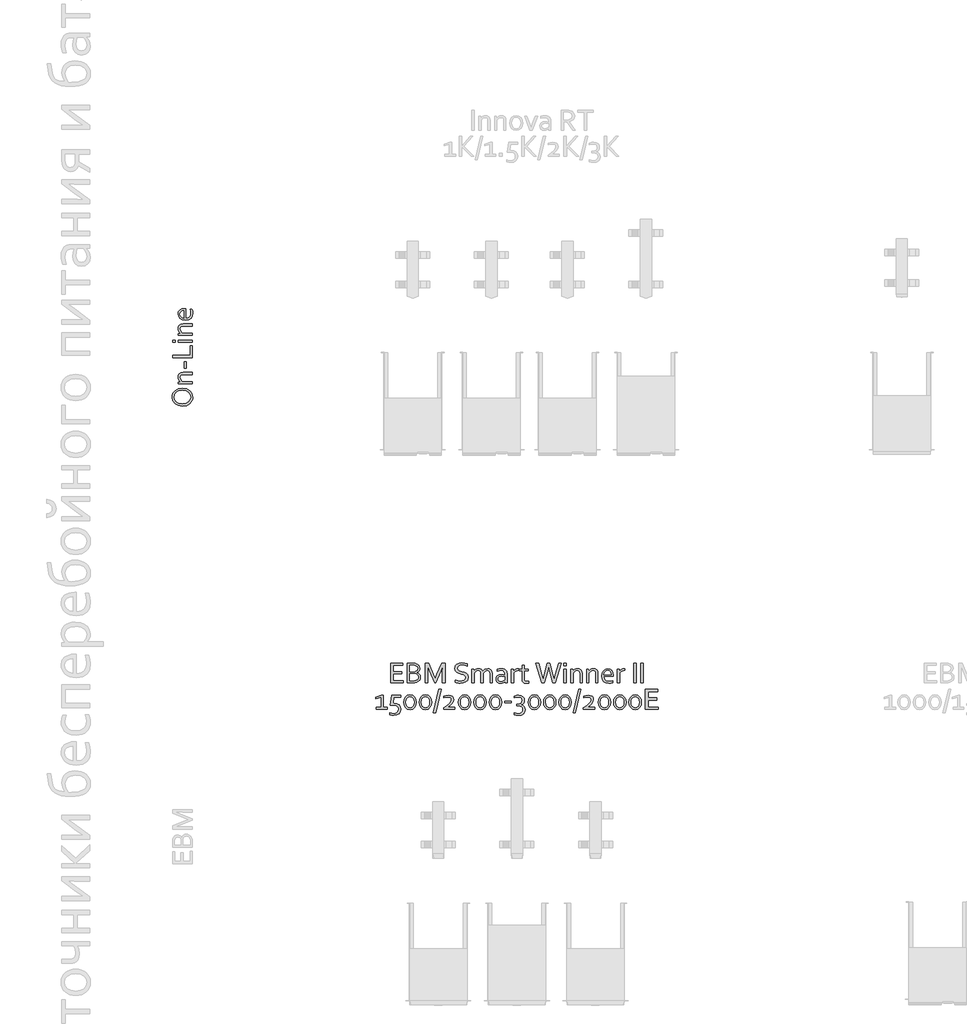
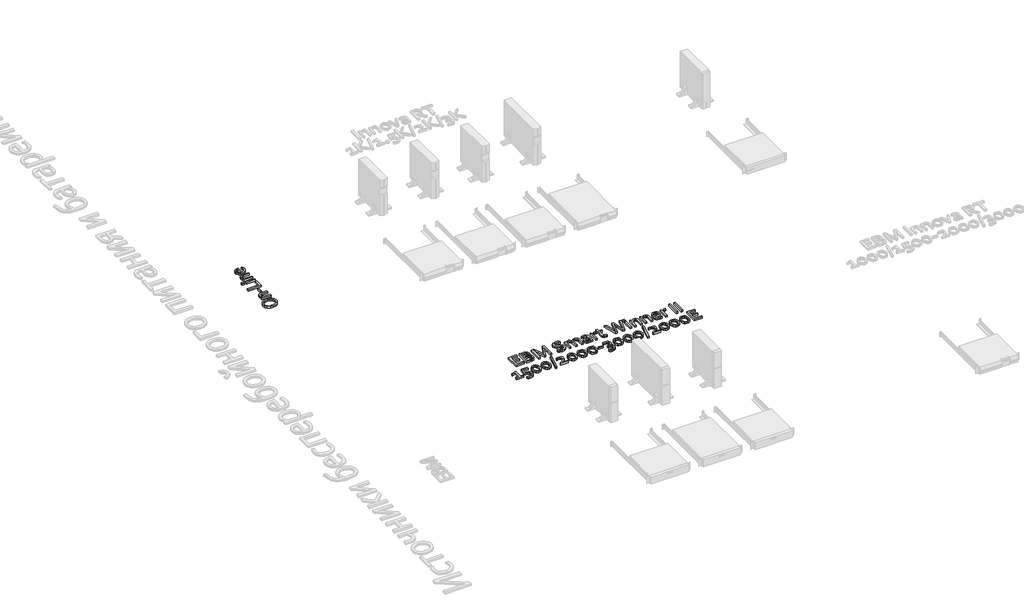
# One storey, part 3 of 14: 2 proxies.
"""IFC4 building model written with IfcOpenShell, lengths in millimetres."""

from ifc_helpers import new_model, si_unit, origin, origin_with_axes, place, context, project, spatial, polyline, outline, extrude, element, save

model = new_model("IFC4")

# Units and contexts
model_context = context("Model", 3, world=origin())
ifc_project = project(units=[si_unit("LENGTHUNIT", "METRE", prefix="MILLI")], contexts=[model_context])

# Site, building, storey
site = spatial("IfcSite", under=ifc_project)
building = spatial("IfcBuilding", under=site)
storey = spatial("IfcBuildingStorey", under=building, Name="Этаж 01", Elevation=0.0)

# Proxies
placement = place(None, origin())
element("IfcBuildingElementProxy", 1, Name="150 мм Corbel", ObjectType="150 мм Corbel", at=placement, inside=storey, context=model_context, shape_type="SweptSolid", body=[
    extrude(outline(polyline([(2451.7255565, -5315.0828355), (2483.2258256, -5319.8953767), (2507.966662, -5333.6548692), (2524.1761755, -5355.2238035), (2529.9949752, -5383.4646698), (2528.5402752, -5398.7991758), (2524.1761755, -5412.4274172), (2507.966662, -5434.0401019), (2483.2258256, -5447.5808426), (2451.7255565, -5452.2840078), (2420.0284106, -5447.4277163), (2395.2219487, -5433.6682237), (2379.0124352, -5412.0992894), (2373.1936355, -5383.6834216), (2374.6483354, -5368.4582916), (2379.0124352, -5354.8956757), (2395.2219487, -5333.3267414), (2420.0284106, -5319.7860007), (2451.7255565, -5315.0828355)]), holes=[polyline([(2451.7255565, -5331.8829791), (2424.9940781, -5335.8642631), (2405.7001632, -5346.8237317), (2393.975063, -5363.2957475), (2389.993779, -5383.6834216), (2393.975063, -5404.0710958), (2405.7001632, -5420.5431116), (2424.9940781, -5431.5025802), (2451.7255565, -5435.4838642), (2478.3695341, -5431.4588298), (2497.5978234, -5420.4337356), (2509.257298, -5403.9617199), (2513.1948316, -5383.4646698), (2509.257298, -5363.1863715), (2497.5978234, -5346.8237317), (2478.3695341, -5335.8642631), (2451.7255565, -5331.8829791)])]), origin_with_axes(), (0.0, 0.0, 1.0), 20.0),
    extrude(outline(polyline([(2435.5816685, -5264.7699057), (2428.7128598, -5258.0542233), (2423.0909368, -5250.2010312), (2419.3284047, -5240.6853249), (2417.9940183, -5229.4196036), (2420.0065355, -5215.8132374), (2426.503466, -5204.8100184), (2438.2066909, -5197.4162052), (2455.9693427, -5194.6818068), (2527.1949512, -5194.6818068), (2527.1949512, -5211.4819504), (2458.113111, -5211.4819504), (2446.1528526, -5212.8272744), (2438.097315, -5216.8632464), (2433.5199322, -5223.4695528), (2431.9941379, -5232.5258802), (2437.2223075, -5250.0697801), (2451.5943053, -5264.6824049), (2527.1949512, -5264.6824049), (2527.1949512, -5281.4825485), (2420.7940422, -5281.4825485), (2420.7940422, -5268.1386845), (2435.5816685, -5264.7699057)])), origin_with_axes(), (0.0, 0.0, 1.0), 20.0),
    extrude(outline(polyline([(2465.5944249, -5164.4065482), (2465.5944249, -5114.9686258), (2479.5945446, -5114.9686258), (2479.5945446, -5164.4065482), (2465.5944249, -5164.4065482)])), origin_with_axes(), (0.0, 0.0, 1.0), 20.0),
    extrude(outline(polyline([(2375.9936594, -5063.0806825), (2510.3948077, -5063.0806825), (2510.3948077, -4989.8425567), (2527.1949512, -4989.8425567), (2527.1949512, -5082.6808499), (2375.9936594, -5082.6808499), (2375.9936594, -5063.0806825)])), origin_with_axes(), (0.0, 0.0, 1.0), 20.0),
    extrude(outline(polyline([(2395.5938269, -4965.0798452), (2375.9936594, -4965.0798452), (2375.9936594, -4948.2797016), (2395.5938269, -4948.2797016), (2395.5938269, -4965.0798452)])), origin_with_axes(), (0.0, 0.0, 1.0), 20.0),
    extrude(outline(polyline([(2527.1949512, -4965.0798452), (2420.7940422, -4965.0798452), (2420.7940422, -4948.2797016), (2527.1949512, -4948.2797016), (2527.1949512, -4965.0798452)])), origin_with_axes(), (0.0, 0.0, 1.0), 20.0),
    extrude(outline(polyline([(2435.5816685, -4895.1667478), (2428.7128598, -4888.4510655), (2423.0909368, -4880.5978734), (2419.3284047, -4871.0821671), (2417.9940183, -4859.8164458), (2420.0065355, -4846.2100796), (2426.503466, -4835.2068606), (2438.2066909, -4827.8130474), (2455.9693427, -4825.078649), (2527.1949512, -4825.078649), (2527.1949512, -4841.8787926), (2458.113111, -4841.8787926), (2446.1528526, -4843.2241166), (2438.097315, -4847.2600885), (2433.5199322, -4853.866395), (2431.9941379, -4862.9227224), (2437.2223075, -4880.4666222), (2451.5943053, -4895.0792471), (2527.1949512, -4895.0792471), (2527.1949512, -4911.8793906), (2420.7940422, -4911.8793906), (2420.7940422, -4898.5355266), (2435.5816685, -4895.1667478)])), origin_with_axes(), (0.0, 0.0, 1.0), 20.0),
    extrude(outline(polyline([(2515.9948556, -4741.7341869), (2514.529218, -4725.9621772), (2510.3948077, -4711.7651809), (2524.2199258, -4711.7651809), (2528.4418369, -4725.8965516), (2529.9949752, -4743.965456), (2527.0855753, -4765.4250144), (2517.6792449, -4782.4439098), (2500.7040999, -4793.2502521), (2475.438259, -4797.0784098), (2450.1942934, -4793.0971258), (2432.3441409, -4782.5095353), (2421.5815489, -4767.2844052), (2417.9940183, -4749.3030016), (2420.9252933, -4732.8091107), (2430.1566222, -4719.5089971), (2446.409886, -4710.605796), (2470.2757149, -4707.3463931), (2472.5288592, -4707.3463931), (2476.7945206, -4707.4776443), (2476.7945206, -4781.1970241), (2494.9946761, -4778.1126228), (2507.1135297, -4769.6906758), (2513.8729624, -4757.1780689), (2515.9948556, -4741.7341869)]), holes=[polyline([(2431.9941379, -4750.046758), (2434.4222836, -4761.5531063), (2441.0285901, -4770.8281855), (2450.8067986, -4777.2594905), (2462.794401, -4780.2782663), (2462.794401, -4724.2777878), (2450.6974227, -4725.9621772), (2440.9192141, -4730.9278446), (2434.3785332, -4738.9779134), (2431.9941379, -4750.046758)])]), origin_with_axes(), (0.0, 0.0, 1.0), 20.0),
])
element("IfcBuildingElementProxy", 2, Name="150 мм Corbel", ObjectType="150 мм Corbel", at=placement, inside=storey, context=model_context, shape_type="SweptSolid", body=[
    extrude(outline(polyline([(4061.2924439, -7548.6877316), (4138.205601, -7548.6877316), (4138.205601, -7565.4878752), (4041.6922764, -7565.4878752), (4041.6922764, -7414.2865833), (4134.0493155, -7414.2865833), (4134.0493155, -7431.0867269), (4061.2924439, -7431.0867269), (4061.2924439, -7478.6871335), (4125.9992467, -7478.6871335), (4125.9992467, -7495.4872771), (4061.2924439, -7495.4872771), (4061.2924439, -7548.6877316)])), origin_with_axes(), (0.0, 0.0, 1.0), 20.0),
    extrude(outline(polyline([(4239.0064622, -7486.1246971), (4251.497194, -7490.1278563), (4260.9035243, -7497.1497913), (4266.6348233, -7507.3217532), (4268.4942142, -7520.7749931), (4266.9848263, -7532.0407144), (4261.9535333, -7543.4814371), (4252.7222044, -7553.7190246), (4238.5689585, -7561.37534), (4224.1750855, -7564.5691173), (4205.1874233, -7565.4878752), (4167.6933529, -7565.4878752), (4167.6933529, -7414.2865833), (4204.1374143, -7414.2865833), (4213.2156169, -7414.4615848), (4220.7406812, -7414.9647141), (4227.1282357, -7415.7959712), (4232.7064084, -7416.9553561), (4245.1752649, -7422.1616506), (4254.7128464, -7430.0148427), (4260.7722732, -7440.3836813), (4262.8941663, -7453.0056641), (4261.6035303, -7463.4838786), (4257.4472448, -7472.7370827), (4250.0534316, -7480.3277726), (4239.0064622, -7486.1246971)]), holes=[polyline([(4214.4187522, -7478.6871335), (4223.4532043, -7478.1840042), (4230.3438882, -7476.7183667), (4242.3314906, -7468.1214183), (4246.0940228, -7454.3181753), (4242.1564891, -7440.9961865), (4229.8188837, -7433.2742455), (4220.1938015, -7431.5898561), (4207.2874412, -7431.0867269), (4187.2935204, -7431.0867269), (4187.2935204, -7478.6871335), (4214.4187522, -7478.6871335)]), polyline([(4187.2935204, -7495.4872771), (4187.2935204, -7548.6877316), (4208.5999524, -7548.6877316), (4222.6875728, -7547.9439753), (4233.712667, -7545.5814551), (4242.1564891, -7541.1845425), (4247.7346618, -7535.2344917), (4250.7753128, -7528.3219326), (4251.6940706, -7520.9062443), (4250.7096872, -7512.7030492), (4247.5159099, -7505.8342405), (4241.675235, -7500.5185701), (4232.662658, -7496.9747898), (4225.2250945, -7495.8372801), (4214.9000063, -7495.4872771), (4187.2935204, -7495.4872771)])]), origin_with_axes(), (0.0, 0.0, 1.0), 20.0),
    extrude(outline(polyline([(4384.7389573, -7565.4878752), (4376.2513848, -7565.4878752), (4339.2385686, -7475.1871036), (4323.838437, -7434.6305071), (4324.4946926, -7492.3810005), (4324.4946926, -7565.4878752), (4304.8945252, -7565.4878752), (4304.8945252, -7414.2865833), (4331.3635013, -7414.2865833), (4366.8013041, -7499.8185641), (4380.1889185, -7535.2126165), (4394.1452877, -7499.8185641), (4429.6268409, -7414.2865833), (4456.095817, -7414.2865833), (4456.095817, -7565.4878752), (4436.4956495, -7565.4878752), (4436.4956495, -7492.3810005), (4438.070663, -7434.6305071), (4421.7517736, -7475.1871036), (4384.7389573, -7565.4878752)])), origin_with_axes(), (0.0, 0.0, 1.0), 20.0),
    extrude(outline(polyline([(4551.2966304, -7454.3181753), (4554.0310287, -7465.3213943), (4561.3592164, -7472.4964556), (4572.0343076, -7477.1339953), (4584.721916, -7480.5246492), (4602.2001903, -7485.2715648), (4617.4909459, -7492.4466261), (4628.3410386, -7504.368603), (4632.4973241, -7523.2250141), (4628.0129108, -7543.4814371), (4615.6315551, -7557.5034319), (4597.0813966, -7565.6410015), (4573.7405721, -7568.2878991), (4561.8185953, -7567.5660179), (4550.1591207, -7565.6191263), (4540.1184099, -7562.8191023), (4533.0527245, -7559.7128258), (4533.0527245, -7543.0876838), (4542.1309271, -7546.5220881), (4552.5653912, -7549.1689857), (4563.4373591, -7550.8752503), (4573.7405721, -7551.4877555), (4588.7250752, -7550.1533691), (4601.2158069, -7545.690831), (4609.7471298, -7537.1813833), (4612.8971567, -7523.6625178), (4610.0971328, -7512.4842973), (4602.637694, -7505.1998601), (4591.8751021, -7500.5185701), (4579.0343674, -7497.1060409), (4561.6217186, -7492.556002), (4546.4622141, -7485.4903167), (4535.7433725, -7473.8527172), (4531.6964629, -7455.6744369), (4535.9402492, -7435.8555176), (4547.4247223, -7422.1179002), (4563.9842388, -7414.0897066), (4583.8469085, -7411.4865594), (4606.2033495, -7413.783454), (4625.1910117, -7419.75538), (4625.1910117, -7436.6867747), (4605.9627224, -7430.6929735), (4584.721916, -7428.2867029), (4569.9124144, -7430.1242186), (4559.4998255, -7435.3523883), (4553.3310228, -7443.5774586), (4551.2966304, -7454.3181753)])), origin_with_axes(), (0.0, 0.0, 1.0), 20.0),
    extrude(outline(polyline([(4747.298305, -7565.4878752), (4730.4981615, -7565.4878752), (4730.4981615, -7496.4060349), (4728.9668984, -7484.4840581), (4724.5043602, -7476.3902389), (4717.5261756, -7471.7526993), (4708.4479731, -7470.2870618), (4691.232201, -7475.5152314), (4677.2977069, -7489.8872292), (4677.2977069, -7565.4878752), (4660.4975634, -7565.4878752), (4660.4975634, -7459.0869661), (4673.9289281, -7459.0869661), (4677.2539565, -7473.8745924), (4683.9477637, -7467.0057837), (4691.5384536, -7461.3838607), (4700.7479073, -7457.6213286), (4711.7292511, -7456.2869422), (4722.5793438, -7457.7142981), (4731.4169193, -7461.9963659), (4743.4920225, -7477.5496238), (4760.1827901, -7461.9307404), (4781.4673469, -7456.2869422), (4793.411199, -7457.8619556), (4805.005048, -7463.637005), (4813.7988732, -7475.230854), (4817.2989031, -7494.2622666), (4817.2989031, -7565.4878752), (4800.4987595, -7565.4878752), (4800.4987595, -7496.4060349), (4798.9674964, -7484.4840581), (4794.5268335, -7476.3902389), (4787.5705241, -7471.7526993), (4778.4923215, -7470.2870618), (4761.2546742, -7475.5152314), (4747.298305, -7489.8872292), (4747.298305, -7565.4878752)])), origin_with_axes(), (0.0, 0.0, 1.0), 20.0),
    extrude(outline(polyline([(4913.0247209, -7553.7190246), (4907.2277964, -7559.034695), (4899.812108, -7563.7597354), (4890.6245295, -7567.0628886), (4879.9931887, -7568.2878991), (4865.9711939, -7566.0347548), (4855.0117253, -7559.4065732), (4847.8585392, -7548.7533572), (4845.2991423, -7534.5126105), (4848.1429166, -7520.5124909), (4856.1054846, -7510.0342764), (4868.4212148, -7503.4060947), (4884.3244757, -7501.0873249), (4899.571481, -7502.5748376), (4912.0622127, -7505.9436164), (4912.4997164, -7498.3310514), (4911.9309616, -7489.9966052), (4910.0059451, -7483.6309258), (4900.7308659, -7474.0714691), (4883.4494682, -7470.2870618), (4868.2462133, -7471.7745745), (4854.0929674, -7475.8871096), (4854.0929674, -7462.1932426), (4860.4148964, -7459.8088472), (4868.093087, -7457.905706), (4876.6025347, -7456.7025707), (4885.5932366, -7456.2869422), (4900.2277366, -7457.7142981), (4911.8434608, -7461.9963659), (4920.5060348, -7468.6300164), (4926.2810842, -7477.1121201), (4928.599854, -7485.0090626), (4929.29986, -7494.4810185), (4929.29986, -7565.4878752), (4914.905987, -7565.4878752), (4913.0247209, -7553.7190246)]), holes=[polyline([(4912.4997164, -7519.0687286), (4900.8839922, -7516.4655813), (4886.118241, -7515.0874445), (4868.4649652, -7519.8562353), (4863.6907057, -7525.9047245), (4862.0992858, -7534.5126105), (4863.6961745, -7543.2626853), (4868.0712119, -7549.4533632), (4874.6556431, -7553.0846442), (4882.7932126, -7554.2877795), (4893.3808031, -7552.6471404), (4902.0871275, -7548.731482), (4908.5621828, -7544.1814431), (4912.4997164, -7540.6376628), (4912.4997164, -7519.0687286)])]), origin_with_axes(), (0.0, 0.0, 1.0), 20.0),
    extrude(outline(polyline([(5020.6943908, -7470.2870618), (5007.2630261, -7471.4464467), (4996.1066808, -7474.9683518), (4986.7003504, -7480.8090267), (4979.7002906, -7489.0122218), (4979.7002906, -7565.4878752), (4962.9001471, -7565.4878752), (4962.9001471, -7459.0869661), (4975.8940081, -7459.0869661), (4979.1315357, -7476.0183607), (4985.7815925, -7468.2745446), (4994.2472899, -7461.9963659), (5004.5723781, -7457.7963301), (5016.3631038, -7456.2869422), (5018.6381233, -7456.3306925), (5020.6943908, -7456.4619437), (5020.6943908, -7470.2870618)])), origin_with_axes(), (0.0, 0.0, 1.0), 20.0),
    extrude(outline(polyline([(5094.2825196, -7565.8816285), (5087.4574612, -7567.456642), (5076.4761174, -7568.2878991), (5061.9947437, -7566.1878811), (5051.9540329, -7560.1940799), (5046.0477325, -7550.7658744), (5044.1008408, -7538.4501441), (5044.1008408, -7473.0870857), (5023.5819155, -7473.0870857), (5023.5819155, -7459.0869661), (5044.1008408, -7459.0869661), (5044.1008408, -7431.0867269), (5060.9009844, -7431.0867269), (5060.9009844, -7459.0869661), (5092.7075061, -7459.0869661), (5092.7075061, -7473.0870857), (5060.9009844, -7473.0870857), (5060.9009844, -7536.7001292), (5061.9509933, -7543.7220642), (5065.2978969, -7549.3002368), (5071.1823222, -7552.9752682), (5079.8448962, -7554.2877795), (5087.1730838, -7553.7190246), (5094.2825196, -7552.2752623), (5094.2825196, -7565.8816285)])), origin_with_axes(), (0.0, 0.0, 1.0), 20.0),
    extrude(outline(polyline([(5247.0588249, -7439.2680468), (5238.3962508, -7475.6683577), (5214.9460505, -7565.4878752), (5196.2208905, -7565.4878752), (5150.5017499, -7414.2865833), (5170.1019173, -7414.2865833), (5194.7771282, -7503.0123414), (5204.7959638, -7541.4251696), (5210.0678838, -7520.9718698), (5214.6835482, -7503.2310932), (5237.3024915, -7414.2865833), (5256.902659, -7414.2865833), (5278.9528474, -7503.2310932), (5288.1404258, -7541.4251696), (5298.8592674, -7503.0123414), (5324.1032331, -7414.2865833), (5343.7034006, -7414.2865833), (5297.284254, -7565.4878752), (5278.559094, -7565.4878752), (5255.5901477, -7475.6683577), (5247.0588249, -7439.2680468)])), origin_with_axes(), (0.0, 0.0, 1.0), 20.0),
    extrude(outline(polyline([(5363.303568, -7433.8867508), (5363.303568, -7414.2865833), (5380.1037116, -7414.2865833), (5380.1037116, -7433.8867508), (5363.303568, -7433.8867508)])), origin_with_axes(), (0.0, 0.0, 1.0), 20.0),
    extrude(outline(polyline([(5363.303568, -7565.4878752), (5363.303568, -7459.0869661), (5380.1037116, -7459.0869661), (5380.1037116, -7565.4878752), (5363.303568, -7565.4878752)])), origin_with_axes(), (0.0, 0.0, 1.0), 20.0),
    extrude(outline(polyline([(5433.2166654, -7473.8745924), (5439.9323477, -7467.0057837), (5447.7855398, -7461.3838607), (5457.3012461, -7457.6213286), (5468.5669674, -7456.2869422), (5482.1733336, -7458.2994594), (5493.1765526, -7464.7963899), (5500.5703658, -7476.4996149), (5503.3047642, -7494.2622666), (5503.3047642, -7565.4878752), (5486.5046206, -7565.4878752), (5486.5046206, -7496.4060349), (5485.1592966, -7484.4457765), (5481.1233247, -7476.3902389), (5474.5170182, -7471.8128561), (5465.4606908, -7470.2870618), (5447.9167909, -7475.5152314), (5433.3041661, -7489.8872292), (5433.3041661, -7565.4878752), (5416.5040226, -7565.4878752), (5416.5040226, -7459.0869661), (5429.8478866, -7459.0869661), (5433.2166654, -7473.8745924)])), origin_with_axes(), (0.0, 0.0, 1.0), 20.0),
    extrude(outline(polyline([(5553.617694, -7473.8745924), (5560.3333764, -7467.0057837), (5568.1865685, -7461.3838607), (5577.7022748, -7457.6213286), (5588.9679961, -7456.2869422), (5602.5743623, -7458.2994594), (5613.5775813, -7464.7963899), (5620.9713945, -7476.4996149), (5623.7057929, -7494.2622666), (5623.7057929, -7565.4878752), (5606.9056493, -7565.4878752), (5606.9056493, -7496.4060349), (5605.5603253, -7484.4457765), (5601.5243533, -7476.3902389), (5594.9180469, -7471.8128561), (5585.8617195, -7470.2870618), (5568.3178196, -7475.5152314), (5553.7051948, -7489.8872292), (5553.7051948, -7565.4878752), (5536.9050512, -7565.4878752), (5536.9050512, -7459.0869661), (5550.2489153, -7459.0869661), (5553.617694, -7473.8745924)])), origin_with_axes(), (0.0, 0.0, 1.0), 20.0),
    extrude(outline(polyline([(5707.0502549, -7554.2877795), (5722.8222647, -7552.8221419), (5737.019261, -7548.6877316), (5737.019261, -7562.5128497), (5722.8878903, -7566.7347608), (5704.8189859, -7568.2878991), (5683.3594275, -7565.3784992), (5666.3405321, -7555.9721688), (5655.5341898, -7538.9970238), (5651.7060321, -7513.731183), (5655.6873161, -7488.4872173), (5666.2749066, -7470.6370648), (5681.5000366, -7459.8744728), (5699.4814403, -7456.2869422), (5715.9753312, -7459.2182172), (5729.2754448, -7468.4495461), (5738.1786459, -7484.7028099), (5741.4380487, -7508.5686388), (5741.4380487, -7510.8217831), (5741.3067976, -7515.0874445), (5667.5874178, -7515.0874445), (5670.6718191, -7533.2876), (5679.0937661, -7545.4064536), (5691.606373, -7552.1658863), (5707.0502549, -7554.2877795)]), holes=[polyline([(5698.7376839, -7470.2870618), (5687.2313356, -7472.7152075), (5677.9562564, -7479.321514), (5671.5249514, -7489.0997225), (5668.5061756, -7501.0873249), (5724.5066541, -7501.0873249), (5722.8222647, -7488.9903466), (5717.8565973, -7479.212138), (5709.8065285, -7472.6714571), (5698.7376839, -7470.2870618)])]), origin_with_axes(), (0.0, 0.0, 1.0), 20.0),
    extrude(outline(polyline([(5829.9013046, -7470.2870618), (5816.4699398, -7471.4464467), (5805.3135945, -7474.9683518), (5795.9072641, -7480.8090267), (5788.9072043, -7489.0122218), (5788.9072043, -7565.4878752), (5772.1070608, -7565.4878752), (5772.1070608, -7459.0869661), (5785.1009218, -7459.0869661), (5788.3384495, -7476.0183607), (5794.9885063, -7468.2745446), (5803.4542036, -7461.9963659), (5813.7792918, -7457.7963301), (5825.5700176, -7456.2869422), (5827.845037, -7456.3306925), (5829.9013046, -7456.4619437), (5829.9013046, -7470.2870618)])), origin_with_axes(), (0.0, 0.0, 1.0), 20.0),
    extrude(outline(polyline([(5895.3081134, -7565.4878752), (5895.3081134, -7414.2865833), (5914.9082808, -7414.2865833), (5914.9082808, -7565.4878752), (5895.3081134, -7565.4878752)])), origin_with_axes(), (0.0, 0.0, 1.0), 20.0),
    extrude(outline(polyline([(5951.3085918, -7565.4878752), (5951.3085918, -7414.2865833), (5970.9087593, -7414.2865833), (5970.9087593, -7565.4878752), (5951.3085918, -7565.4878752)])), origin_with_axes(), (0.0, 0.0, 1.0), 20.0),
    extrude(outline(polyline([(3967.4916425, -7751.8881861), (3967.4916425, -7673.4875163), (3927.0225467, -7687.4876359), (3927.0225467, -7673.4875163), (3969.7666619, -7659.4873967), (3984.291786, -7659.4873967), (3984.291786, -7751.8881861), (4013.6482868, -7751.8881861), (4013.6482868, -7765.8883058), (3931.7038367, -7765.8883058), (3931.7038367, -7751.8881861), (3967.4916425, -7751.8881861)])), origin_with_axes(), (0.0, 0.0, 1.0), 20.0),
    extrude(outline(polyline([(4118.6929343, -7765.7570546), (4115.2147796, -7784.8103424), (4105.0209425, -7799.9260966), (4088.0895478, -7809.9011818), (4064.8799745, -7813.4887125), (4048.6267107, -7812.0011997), (4034.735967, -7807.4511609), (4034.735967, -7793.888545), (4050.420476, -7798.3292079), (4064.0924678, -7799.4885928), (4080.6957347, -7796.8635704), (4092.4645852, -7789.7103843), (4099.5302706, -7779.1665442), (4101.8927908, -7766.5445614), (4099.3990195, -7752.6100673), (4091.5895777, -7742.8318588), (4077.9394611, -7737.0130591), (4057.8361643, -7735.0880426), (4038.0609954, -7736.2255523), (4048.6923362, -7659.4873967), (4119.7429433, -7659.4873967), (4119.7429433, -7673.4875163), (4065.4924798, -7673.4875163), (4059.2361763, -7721.3066749), (4065.4924798, -7721.087923), (4088.2426741, -7724.1066988), (4104.9334417, -7732.8348984), (4115.1929044, -7746.835018), (4118.6929343, -7765.7570546)])), origin_with_axes(), (0.0, 0.0, 1.0), 20.0),
    extrude(outline(polyline([(4236.2939391, -7712.8191023), (4233.0782866, -7734.9130411), (4223.7375818, -7752.6538177), (4208.8405795, -7764.4226682), (4188.7810331, -7768.6883297), (4168.3277334, -7764.4226682), (4153.3651055, -7752.6538177), (4144.1994022, -7734.9130411), (4141.0931257, -7712.8191023), (4144.3087782, -7690.5720373), (4153.649483, -7672.7656351), (4168.6121108, -7660.9530342), (4188.6935324, -7656.6873728), (4209.0593314, -7660.9530342), (4224.0219592, -7672.7656351), (4233.1876625, -7690.5720373), (4236.2939391, -7712.8191023)]), holes=[polyline([(4219.4937955, -7712.8191023), (4217.3062768, -7695.1658265), (4211.1155989, -7681.9313384), (4201.4467663, -7673.5968922), (4188.6935324, -7670.6874924), (4175.9402984, -7673.5968922), (4166.2277154, -7681.9313384), (4160.0370375, -7695.1658265), (4157.8932692, -7712.8191023), (4160.0807879, -7730.3192519), (4166.2714658, -7743.5099896), (4176.005924, -7751.7788102), (4188.8247835, -7754.6882101), (4201.5561423, -7751.7788102), (4211.2249749, -7743.5099896), (4217.3500272, -7730.3192519), (4219.4937955, -7712.8191023)])]), origin_with_axes(), (0.0, 0.0, 1.0), 20.0),
    extrude(outline(polyline([(4353.8949438, -7712.8191023), (4350.6792913, -7734.9130411), (4341.3385865, -7752.6538177), (4326.4415843, -7764.4226682), (4306.3820379, -7768.6883297), (4285.9287381, -7764.4226682), (4270.9661103, -7752.6538177), (4261.800407, -7734.9130411), (4258.6941304, -7712.8191023), (4261.9097829, -7690.5720373), (4271.2504877, -7672.7656351), (4286.2131156, -7660.9530342), (4306.2945371, -7656.6873728), (4326.6603361, -7660.9530342), (4341.622964, -7672.7656351), (4350.7886673, -7690.5720373), (4353.8949438, -7712.8191023)]), holes=[polyline([(4337.0948003, -7712.8191023), (4334.9072816, -7695.1658265), (4328.7166037, -7681.9313384), (4319.0477711, -7673.5968922), (4306.2945371, -7670.6874924), (4293.5413032, -7673.5968922), (4283.8287202, -7681.9313384), (4277.6380423, -7695.1658265), (4275.494274, -7712.8191023), (4277.6817927, -7730.3192519), (4283.8724706, -7743.5099896), (4293.6069287, -7751.7788102), (4306.4257883, -7754.6882101), (4319.157147, -7751.7788102), (4328.8259796, -7743.5099896), (4334.951032, -7730.3192519), (4337.0948003, -7712.8191023)])]), origin_with_axes(), (0.0, 0.0, 1.0), 20.0),
    extrude(outline(polyline([(4367.1075567, -7793.888545), (4409.7204208, -7614.6870139), (4426.3018125, -7614.6870139), (4383.6889484, -7793.888545), (4367.1075567, -7793.888545)])), origin_with_axes(), (0.0, 0.0, 1.0), 20.0),
    extrude(outline(polyline([(4474.0772206, -7752.3256899), (4497.2649187, -7751.8881861), (4530.9527066, -7751.8881861), (4530.9527066, -7765.8883058), (4445.683228, -7765.8883058), (4445.683228, -7756.3507243), (4469.4615562, -7738.5661973), (4488.2304666, -7722.7504372), (4500.6118223, -7708.0065612), (4505.0962357, -7693.5689379), (4503.526691, -7684.9610518), (4498.818057, -7678.6500604), (4491.1672104, -7674.7781523), (4480.7710278, -7673.4875163), (4463.7958828, -7675.084405), (4446.8207378, -7679.0875642), (4446.8207378, -7667.012461), (4462.5708723, -7661.7405409), (4483.133548, -7659.4873967), (4499.2774359, -7661.7186658), (4511.5056654, -7668.2155963), (4519.183856, -7678.7594363), (4521.8963792, -7693.2626853), (4518.3525989, -7709.6253251), (4508.5525152, -7724.2379499), (4493.3273851, -7738.063068), (4474.0772206, -7752.3256899)])), origin_with_axes(), (0.0, 0.0, 1.0), 20.0),
    extrude(outline(polyline([(4653.4975036, -7712.8191023), (4650.2818511, -7734.9130411), (4640.9411463, -7752.6538177), (4626.044144, -7764.4226682), (4605.9845976, -7768.6883297), (4585.5312979, -7764.4226682), (4570.56867, -7752.6538177), (4561.4029667, -7734.9130411), (4558.2966902, -7712.8191023), (4561.5123427, -7690.5720373), (4570.8530475, -7672.7656351), (4585.8156753, -7660.9530342), (4605.8970969, -7656.6873728), (4626.2628959, -7660.9530342), (4641.2255237, -7672.7656351), (4650.391227, -7690.5720373), (4653.4975036, -7712.8191023)]), holes=[polyline([(4636.69736, -7712.8191023), (4634.5098413, -7695.1658265), (4628.3191635, -7681.9313384), (4618.6503308, -7673.5968922), (4605.8970969, -7670.6874924), (4593.1438629, -7673.5968922), (4583.4312799, -7681.9313384), (4577.240602, -7695.1658265), (4575.0968337, -7712.8191023), (4577.2843524, -7730.3192519), (4583.4750303, -7743.5099896), (4593.2094885, -7751.7788102), (4606.028348, -7754.6882101), (4618.7597068, -7751.7788102), (4628.4285394, -7743.5099896), (4634.5535917, -7730.3192519), (4636.69736, -7712.8191023)])]), origin_with_axes(), (0.0, 0.0, 1.0), 20.0),
    extrude(outline(polyline([(4771.0985083, -7712.8191023), (4767.8828559, -7734.9130411), (4758.5421511, -7752.6538177), (4743.6451488, -7764.4226682), (4723.5856024, -7768.6883297), (4703.1323026, -7764.4226682), (4688.1696748, -7752.6538177), (4679.0039715, -7734.9130411), (4675.897695, -7712.8191023), (4679.1133474, -7690.5720373), (4688.4540522, -7672.7656351), (4703.4166801, -7660.9530342), (4723.4981016, -7656.6873728), (4743.8639006, -7660.9530342), (4758.8265285, -7672.7656351), (4767.9922318, -7690.5720373), (4771.0985083, -7712.8191023)]), holes=[polyline([(4754.2983648, -7712.8191023), (4752.1108461, -7695.1658265), (4745.9201682, -7681.9313384), (4736.2513356, -7673.5968922), (4723.4981016, -7670.6874924), (4710.7448677, -7673.5968922), (4701.0322847, -7681.9313384), (4694.8416068, -7695.1658265), (4692.6978385, -7712.8191023), (4694.8853572, -7730.3192519), (4701.0760351, -7743.5099896), (4710.8104932, -7751.7788102), (4723.6293528, -7754.6882101), (4736.3607115, -7751.7788102), (4746.0295441, -7743.5099896), (4752.1545965, -7730.3192519), (4754.2983648, -7712.8191023)])]), origin_with_axes(), (0.0, 0.0, 1.0), 20.0),
    extrude(outline(polyline([(4888.6995131, -7712.8191023), (4885.4838606, -7734.9130411), (4876.1431558, -7752.6538177), (4861.2461535, -7764.4226682), (4841.1866072, -7768.6883297), (4820.7333074, -7764.4226682), (4805.7706796, -7752.6538177), (4796.6049763, -7734.9130411), (4793.4986997, -7712.8191023), (4796.7143522, -7690.5720373), (4806.055057, -7672.7656351), (4821.0176848, -7660.9530342), (4841.0991064, -7656.6873728), (4861.4649054, -7660.9530342), (4876.4275332, -7672.7656351), (4885.5932366, -7690.5720373), (4888.6995131, -7712.8191023)]), holes=[polyline([(4871.8993696, -7712.8191023), (4869.7118509, -7695.1658265), (4863.521173, -7681.9313384), (4853.8523404, -7673.5968922), (4841.0991064, -7670.6874924), (4828.3458724, -7673.5968922), (4818.6332895, -7681.9313384), (4812.4426116, -7695.1658265), (4810.2988433, -7712.8191023), (4812.4863619, -7730.3192519), (4818.6770398, -7743.5099896), (4828.411498, -7751.7788102), (4841.2303575, -7754.6882101), (4853.9617163, -7751.7788102), (4863.6305489, -7743.5099896), (4869.7556012, -7730.3192519), (4871.8993696, -7712.8191023)])]), origin_with_axes(), (0.0, 0.0, 1.0), 20.0),
    extrude(outline(polyline([(4913.3747239, -7704.2877795), (4962.8126463, -7704.2877795), (4962.8126463, -7718.2878991), (4913.3747239, -7718.2878991), (4913.3747239, -7704.2877795)])), origin_with_axes(), (0.0, 0.0, 1.0), 20.0),
    extrude(outline(polyline([(5036.6195269, -7732.6817721), (5047.9946241, -7735.8099238), (5057.6197063, -7742.5256062), (5064.8603932, -7753.2663229), (5067.9010442, -7768.2070756), (5064.6853917, -7786.8884852), (5055.1478102, -7801.1948574), (5038.9164215, -7810.2949352), (5016.0131008, -7813.4887125), (4998.6660776, -7811.9574494), (4984.0315776, -7807.4511609), (4984.0315776, -7793.888545), (4999.9785888, -7798.1760816), (5014.74434, -7799.4885928), (5032.0257376, -7796.9073208), (5043.182083, -7790.1041377), (5049.2415097, -7780.3259291), (5051.1009006, -7768.7320801), (5048.6454109, -7755.9296269), (5041.2789417, -7747.2725217), (5029.51556, -7742.3341983), (5013.8693325, -7740.6880905), (5001.9692309, -7740.6880905), (5001.9692309, -7726.6879708), (5008.9255403, -7726.6879708), (5025.4850568, -7724.5004522), (5036.860154, -7718.4629006), (5043.42271, -7709.384698), (5045.5008528, -7698.1189768), (5043.2039582, -7687.0938826), (5036.9257795, -7679.4375671), (5027.5631995, -7674.9531538), (5016.0131008, -7673.4875163), (5000.6348445, -7674.9969042), (4985.3878392, -7679.0875642), (4985.3878392, -7665.612449), (5002.9317391, -7660.8217831), (5017.675615, -7659.4873967), (5037.0789058, -7662.3530462), (5051.0352751, -7670.3812398), (5059.3915965, -7682.5875941), (5062.3009963, -7698.1189768), (5060.9447347, -7709.0128198), (5056.5040718, -7718.8129036), (5048.5415038, -7726.8410972), (5036.6195269, -7732.6817721)])), origin_with_axes(), (0.0, 0.0, 1.0), 20.0),
    extrude(outline(polyline([(5185.5020489, -7712.8191023), (5182.2863964, -7734.9130411), (5172.9456916, -7752.6538177), (5158.0486894, -7764.4226682), (5137.989143, -7768.6883297), (5117.5358432, -7764.4226682), (5102.5732154, -7752.6538177), (5093.4075121, -7734.9130411), (5090.3012355, -7712.8191023), (5093.516888, -7690.5720373), (5102.8575928, -7672.7656351), (5117.8202207, -7660.9530342), (5137.9016422, -7656.6873728), (5158.2674412, -7660.9530342), (5173.2300691, -7672.7656351), (5182.3957724, -7690.5720373), (5185.5020489, -7712.8191023)]), holes=[polyline([(5168.7019054, -7712.8191023), (5166.5143867, -7695.1658265), (5160.3237088, -7681.9313384), (5150.6548762, -7673.5968922), (5137.9016422, -7670.6874924), (5125.1484083, -7673.5968922), (5115.4358253, -7681.9313384), (5109.2451474, -7695.1658265), (5107.1013791, -7712.8191023), (5109.2888978, -7730.3192519), (5115.4795757, -7743.5099896), (5125.2140338, -7751.7788102), (5138.0328934, -7754.6882101), (5150.7642521, -7751.7788102), (5160.4330847, -7743.5099896), (5166.5581371, -7730.3192519), (5168.7019054, -7712.8191023)])]), origin_with_axes(), (0.0, 0.0, 1.0), 20.0),
    extrude(outline(polyline([(5303.1030537, -7712.8191023), (5299.8874012, -7734.9130411), (5290.5466964, -7752.6538177), (5275.6496941, -7764.4226682), (5255.5901477, -7768.6883297), (5235.136848, -7764.4226682), (5220.1742202, -7752.6538177), (5211.0085168, -7734.9130411), (5207.9022403, -7712.8191023), (5211.1178928, -7690.5720373), (5220.4585976, -7672.7656351), (5235.4212254, -7660.9530342), (5255.502647, -7656.6873728), (5275.868446, -7660.9530342), (5290.8310738, -7672.7656351), (5299.9967771, -7690.5720373), (5303.1030537, -7712.8191023)]), holes=[polyline([(5286.3029101, -7712.8191023), (5284.1153915, -7695.1658265), (5277.9247136, -7681.9313384), (5268.255881, -7673.5968922), (5255.502647, -7670.6874924), (5242.749413, -7673.5968922), (5233.0368301, -7681.9313384), (5226.8461522, -7695.1658265), (5224.7023838, -7712.8191023), (5226.8899025, -7730.3192519), (5233.0805804, -7743.5099896), (5242.8150386, -7751.7788102), (5255.6338981, -7754.6882101), (5268.3652569, -7751.7788102), (5278.0340895, -7743.5099896), (5284.1591418, -7730.3192519), (5286.3029101, -7712.8191023)])]), origin_with_axes(), (0.0, 0.0, 1.0), 20.0),
    extrude(outline(polyline([(5420.7040584, -7712.8191023), (5417.488406, -7734.9130411), (5408.1477012, -7752.6538177), (5393.2506989, -7764.4226682), (5373.1911525, -7768.6883297), (5352.7378528, -7764.4226682), (5337.7752249, -7752.6538177), (5328.6095216, -7734.9130411), (5325.5032451, -7712.8191023), (5328.7188975, -7690.5720373), (5338.0596023, -7672.7656351), (5353.0222302, -7660.9530342), (5373.1036518, -7656.6873728), (5393.4694508, -7660.9530342), (5408.4320786, -7672.7656351), (5417.5977819, -7690.5720373), (5420.7040584, -7712.8191023)]), holes=[polyline([(5403.9039149, -7712.8191023), (5401.7163962, -7695.1658265), (5395.5257183, -7681.9313384), (5385.8568857, -7673.5968922), (5373.1036518, -7670.6874924), (5360.3504178, -7673.5968922), (5350.6378348, -7681.9313384), (5344.4471569, -7695.1658265), (5342.3033886, -7712.8191023), (5344.4909073, -7730.3192519), (5350.6815852, -7743.5099896), (5360.4160434, -7751.7788102), (5373.2349029, -7754.6882101), (5385.9662617, -7751.7788102), (5395.6350943, -7743.5099896), (5401.7601466, -7730.3192519), (5403.9039149, -7712.8191023)])]), origin_with_axes(), (0.0, 0.0, 1.0), 20.0),
    extrude(outline(polyline([(5433.9166713, -7793.888545), (5476.5295354, -7614.6870139), (5493.1109271, -7614.6870139), (5450.498063, -7793.888545), (5433.9166713, -7793.888545)])), origin_with_axes(), (0.0, 0.0, 1.0), 20.0),
    extrude(outline(polyline([(5540.8863353, -7752.3256899), (5564.0740334, -7751.8881861), (5597.7618212, -7751.8881861), (5597.7618212, -7765.8883058), (5512.4923427, -7765.8883058), (5512.4923427, -7756.3507243), (5536.2706708, -7738.5661973), (5555.0395812, -7722.7504372), (5567.420937, -7708.0065612), (5571.9053503, -7693.5689379), (5570.3358056, -7684.9610518), (5565.6271716, -7678.6500604), (5557.976325, -7674.7781523), (5547.5801425, -7673.4875163), (5530.6049974, -7675.084405), (5513.6298524, -7679.0875642), (5513.6298524, -7667.012461), (5529.379987, -7661.7405409), (5549.9426626, -7659.4873967), (5566.0865506, -7661.7186658), (5578.31478, -7668.2155963), (5585.9929706, -7678.7594363), (5588.7054938, -7693.2626853), (5585.1617135, -7709.6253251), (5575.3616298, -7724.2379499), (5560.1364997, -7738.063068), (5540.8863353, -7752.3256899)])), origin_with_axes(), (0.0, 0.0, 1.0), 20.0),
    extrude(outline(polyline([(5720.3066182, -7712.8191023), (5717.0909657, -7734.9130411), (5707.7502609, -7752.6538177), (5692.8532586, -7764.4226682), (5672.7937123, -7768.6883297), (5652.3404125, -7764.4226682), (5637.3777847, -7752.6538177), (5628.2120814, -7734.9130411), (5625.1058048, -7712.8191023), (5628.3214573, -7690.5720373), (5637.6621621, -7672.7656351), (5652.6247899, -7660.9530342), (5672.7062115, -7656.6873728), (5693.0720105, -7660.9530342), (5708.0346384, -7672.7656351), (5717.2003417, -7690.5720373), (5720.3066182, -7712.8191023)]), holes=[polyline([(5703.5064747, -7712.8191023), (5701.318956, -7695.1658265), (5695.1282781, -7681.9313384), (5685.4594455, -7673.5968922), (5672.7062115, -7670.6874924), (5659.9529775, -7673.5968922), (5650.2403946, -7681.9313384), (5644.0497167, -7695.1658265), (5641.9059484, -7712.8191023), (5644.093467, -7730.3192519), (5650.2841449, -7743.5099896), (5660.0186031, -7751.7788102), (5672.8374626, -7754.6882101), (5685.5688214, -7751.7788102), (5695.237654, -7743.5099896), (5701.3627063, -7730.3192519), (5703.5064747, -7712.8191023)])]), origin_with_axes(), (0.0, 0.0, 1.0), 20.0),
    extrude(outline(polyline([(5837.907623, -7712.8191023), (5834.6919705, -7734.9130411), (5825.3512657, -7752.6538177), (5810.4542634, -7764.4226682), (5790.394717, -7768.6883297), (5769.9414173, -7764.4226682), (5754.9787894, -7752.6538177), (5745.8130861, -7734.9130411), (5742.7068096, -7712.8191023), (5745.9224621, -7690.5720373), (5755.2631669, -7672.7656351), (5770.2257947, -7660.9530342), (5790.3072163, -7656.6873728), (5810.6730153, -7660.9530342), (5825.6356431, -7672.7656351), (5834.8013464, -7690.5720373), (5837.907623, -7712.8191023)]), holes=[polyline([(5821.1074794, -7712.8191023), (5818.9199607, -7695.1658265), (5812.7292828, -7681.9313384), (5803.0604502, -7673.5968922), (5790.3072163, -7670.6874924), (5777.5539823, -7673.5968922), (5767.8413993, -7681.9313384), (5761.6507214, -7695.1658265), (5759.5069531, -7712.8191023), (5761.6944718, -7730.3192519), (5767.8851497, -7743.5099896), (5777.6196079, -7751.7788102), (5790.4384674, -7754.6882101), (5803.1698262, -7751.7788102), (5812.8386588, -7743.5099896), (5818.9637111, -7730.3192519), (5821.1074794, -7712.8191023)])]), origin_with_axes(), (0.0, 0.0, 1.0), 20.0),
    extrude(outline(polyline([(5955.5086277, -7712.8191023), (5952.2929753, -7734.9130411), (5942.9522704, -7752.6538177), (5928.0552682, -7764.4226682), (5907.9957218, -7768.6883297), (5887.542422, -7764.4226682), (5872.5797942, -7752.6538177), (5863.4140909, -7734.9130411), (5860.3078143, -7712.8191023), (5863.5234668, -7690.5720373), (5872.8641716, -7672.7656351), (5887.8267995, -7660.9530342), (5907.908221, -7656.6873728), (5928.27402, -7660.9530342), (5943.2366479, -7672.7656351), (5952.4023512, -7690.5720373), (5955.5086277, -7712.8191023)]), holes=[polyline([(5938.7084842, -7712.8191023), (5936.5209655, -7695.1658265), (5930.3302876, -7681.9313384), (5920.661455, -7673.5968922), (5907.908221, -7670.6874924), (5895.1549871, -7673.5968922), (5885.4424041, -7681.9313384), (5879.2517262, -7695.1658265), (5877.1079579, -7712.8191023), (5879.2954766, -7730.3192519), (5885.4861545, -7743.5099896), (5895.2206126, -7751.7788102), (5908.0394722, -7754.6882101), (5920.7708309, -7751.7788102), (5930.4396635, -7743.5099896), (5936.5647159, -7730.3192519), (5938.7084842, -7712.8191023)])]), origin_with_axes(), (0.0, 0.0, 1.0), 20.0),
    extrude(outline(polyline([(6005.9090583, -7749.0881622), (6082.8222155, -7749.0881622), (6082.8222155, -7765.8883058), (5986.3088909, -7765.8883058), (5986.3088909, -7614.6870139), (6078.66593, -7614.6870139), (6078.66593, -7631.4871575), (6005.9090583, -7631.4871575), (6005.9090583, -7679.0875642), (6070.6158612, -7679.0875642), (6070.6158612, -7695.8877077), (6005.9090583, -7695.8877077), (6005.9090583, -7749.0881622)])), origin_with_axes(), (0.0, 0.0, 1.0), 20.0),
])

save(model, "model.ifc")
